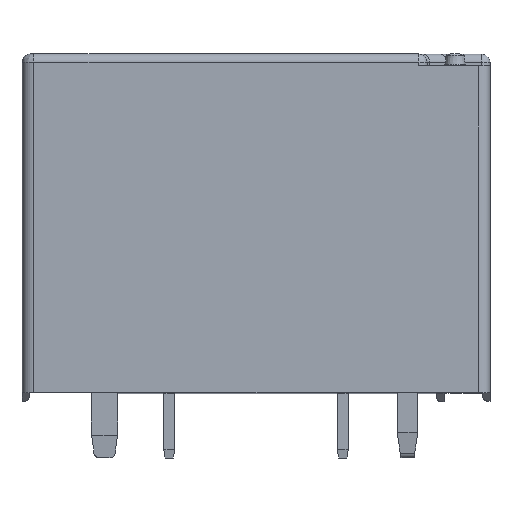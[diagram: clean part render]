
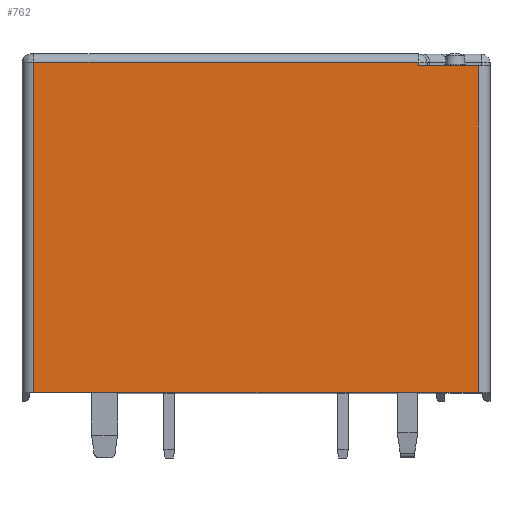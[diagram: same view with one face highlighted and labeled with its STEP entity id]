
A CAD part, top view. The second image highlights one B-rep face of the part: STEP entity #762.
In plain terms, the highlighted planar face has unit normal (0, 0, 1).
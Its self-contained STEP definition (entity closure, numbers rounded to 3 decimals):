
#182 = VERTEX_POINT('',#183);
#183 = CARTESIAN_POINT('',(13.1,-11.46,26.79));
#190 = EDGE_CURVE('',#191,#182,#193,.T.);
#191 = VERTEX_POINT('',#192);
#192 = CARTESIAN_POINT('',(-13.,-11.46,26.79));
#193 = LINE('',#194,#195);
#194 = CARTESIAN_POINT('',(-13.7,-11.46,26.79));
#195 = VECTOR('',#196,1.);
#196 = DIRECTION('',(1.,0.,0.));
#762 = ADVANCED_FACE('',(#763),#804,.T.);
#763 = FACE_BOUND('',#764,.T.);
#764 = EDGE_LOOP('',(#765,#775,#783,#791,#797,#798));
#765 = ORIENTED_EDGE('',*,*,#766,.F.);
#766 = EDGE_CURVE('',#767,#769,#771,.T.);
#767 = VERTEX_POINT('',#768);
#768 = CARTESIAN_POINT('',(9.6,7.74,26.79));
#769 = VERTEX_POINT('',#770);
#770 = CARTESIAN_POINT('',(13.1,7.74,26.79));
#771 = LINE('',#772,#773);
#772 = CARTESIAN_POINT('',(10.1,7.74,26.79));
#773 = VECTOR('',#774,1.);
#774 = DIRECTION('',(1.,0.,0.));
#775 = ORIENTED_EDGE('',*,*,#776,.T.);
#776 = EDGE_CURVE('',#767,#777,#779,.T.);
#777 = VERTEX_POINT('',#778);
#778 = CARTESIAN_POINT('',(9.6,7.94,26.79));
#779 = LINE('',#780,#781);
#780 = CARTESIAN_POINT('',(9.6,8.44,26.79));
#781 = VECTOR('',#782,1.);
#782 = DIRECTION('',(0.,1.,0.));
#783 = ORIENTED_EDGE('',*,*,#784,.T.);
#784 = EDGE_CURVE('',#777,#785,#787,.T.);
#785 = VERTEX_POINT('',#786);
#786 = CARTESIAN_POINT('',(-13.,7.94,26.79));
#787 = LINE('',#788,#789);
#788 = CARTESIAN_POINT('',(-13.7,7.94,26.79));
#789 = VECTOR('',#790,1.);
#790 = DIRECTION('',(-1.,0.,0.));
#791 = ORIENTED_EDGE('',*,*,#792,.T.);
#792 = EDGE_CURVE('',#785,#191,#793,.T.);
#793 = LINE('',#794,#795);
#794 = CARTESIAN_POINT('',(-13.,-11.46,26.79));
#795 = VECTOR('',#796,1.);
#796 = DIRECTION('',(0.,-1.,0.));
#797 = ORIENTED_EDGE('',*,*,#190,.T.);
#798 = ORIENTED_EDGE('',*,*,#799,.T.);
#799 = EDGE_CURVE('',#182,#769,#800,.T.);
#800 = LINE('',#801,#802);
#801 = CARTESIAN_POINT('',(13.1,-11.46,26.79));
#802 = VECTOR('',#803,1.);
#803 = DIRECTION('',(0.,1.,0.));
#804 = PLANE('',#805);
#805 = AXIS2_PLACEMENT_3D('',#806,#807,#808);
#806 = CARTESIAN_POINT('',(-13.7,-11.46,26.79));
#807 = DIRECTION('',(0.,0.,1.));
#808 = DIRECTION('',(0.,-1.,0.));
